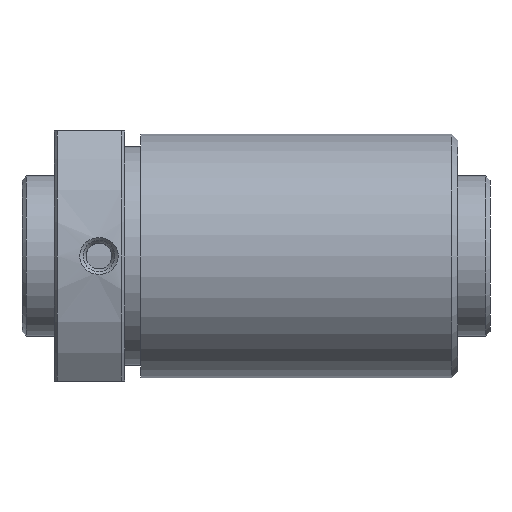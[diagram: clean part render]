
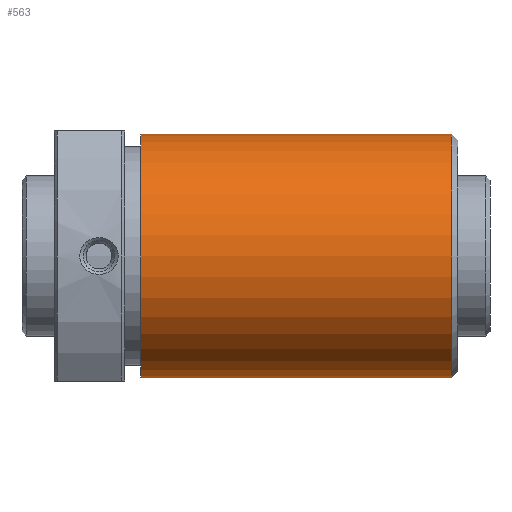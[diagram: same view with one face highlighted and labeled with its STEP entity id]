
A CAD part, front view. The second image highlights one B-rep face of the part: STEP entity #563.
In plain terms, the highlighted cylindrical face has radius 19 mm (diameter 38 mm), a full revolution.
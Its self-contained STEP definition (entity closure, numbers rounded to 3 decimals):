
#69=CYLINDRICAL_SURFACE('',#667,19.);
#169=ORIENTED_EDGE('',*,*,#257,.T.);
#170=ORIENTED_EDGE('',*,*,#256,.F.);
#256=EDGE_CURVE('',#308,#308,#350,.T.);
#257=EDGE_CURVE('',#309,#309,#351,.T.);
#308=VERTEX_POINT('',#1040);
#309=VERTEX_POINT('',#1043);
#350=CIRCLE('',#666,19.);
#351=CIRCLE('',#668,19.);
#417=EDGE_LOOP('',(#169));
#418=EDGE_LOOP('',(#170));
#499=FACE_BOUND('',#417,.T.);
#500=FACE_BOUND('',#418,.T.);
#563=ADVANCED_FACE('',(#499,#500),#69,.T.);
#666=AXIS2_PLACEMENT_3D('',#1039,#825,#826);
#667=AXIS2_PLACEMENT_3D('',#1041,#827,#828);
#668=AXIS2_PLACEMENT_3D('',#1042,#829,#830);
#825=DIRECTION('',(1.,0.,0.));
#826=DIRECTION('',(0.,0.,-1.));
#827=DIRECTION('',(1.,0.,0.));
#828=DIRECTION('',(0.,0.,-1.));
#829=DIRECTION('',(1.,0.,0.));
#830=DIRECTION('',(0.,0.,-1.));
#1039=CARTESIAN_POINT('',(62.,0.,0.));
#1040=CARTESIAN_POINT('',(62.,0.,-19.));
#1041=CARTESIAN_POINT('',(50.,0.,0.));
#1042=CARTESIAN_POINT('',(13.5,0.,0.));
#1043=CARTESIAN_POINT('',(13.5,0.,-19.));
